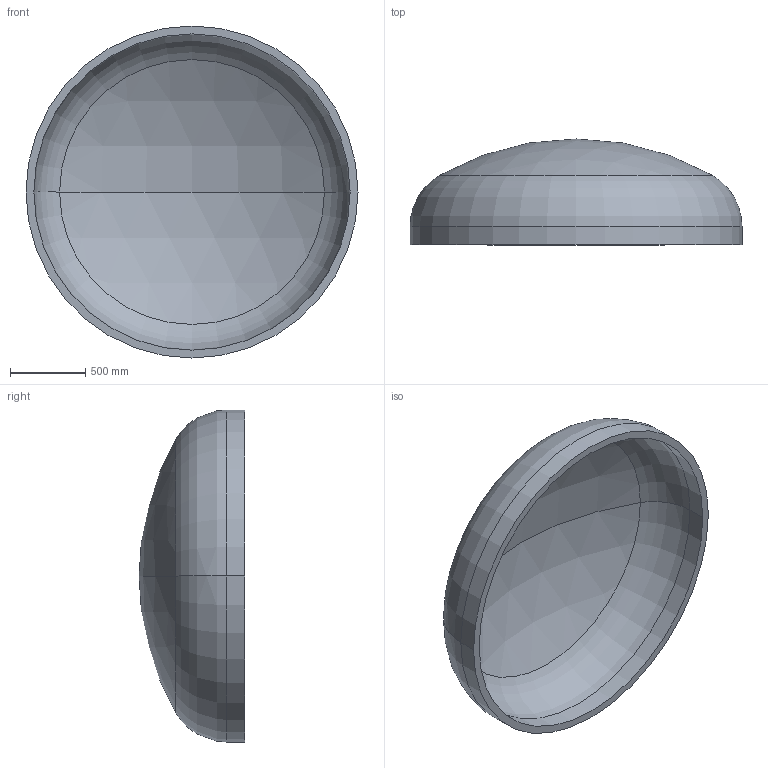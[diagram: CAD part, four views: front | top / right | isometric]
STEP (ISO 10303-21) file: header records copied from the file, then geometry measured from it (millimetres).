
FILE_DESCRIPTION (( 'STEP AP203' ), '1' );
FILE_NAME ('DIN 28013 Korbbogenform_-_Boden DIN 28013 - 2200 x 120 - I - s=52.step', '2016-07-01T14:41:15', ( '' ), ( '' ), 'SwSTEP 2.0', 'SolidWorks 2013', '' );
FILE_SCHEMA (( 'CONFIG_CONTROL_DESIGN' ));
Length unit declared in the file: millimetre
Products named in the file (1): DIN 28013 Korbbogenform_-_Boden DIN 28013 - 2200 x 120 - I - s=52
Bounding box: 2200 x 701.09 x 2200 mm (x, y, z)
Volume: 307698791 mm3; surface area: 12191131.7 mm2
Topology: 1 solids, 1 shells, 13 faces, 24 edges, 14 vertices
Faces by surface type: torus 4, cylinder 4, sphere 4, plane 1
Entity records: 407 total; most frequent: DIRECTION 72, CARTESIAN_POINT 52, ORIENTED_EDGE 48, AXIS2_PLACEMENT_3D 34, EDGE_CURVE 24, CIRCLE 20, EDGE_LOOP 14, VERTEX_POINT 14
